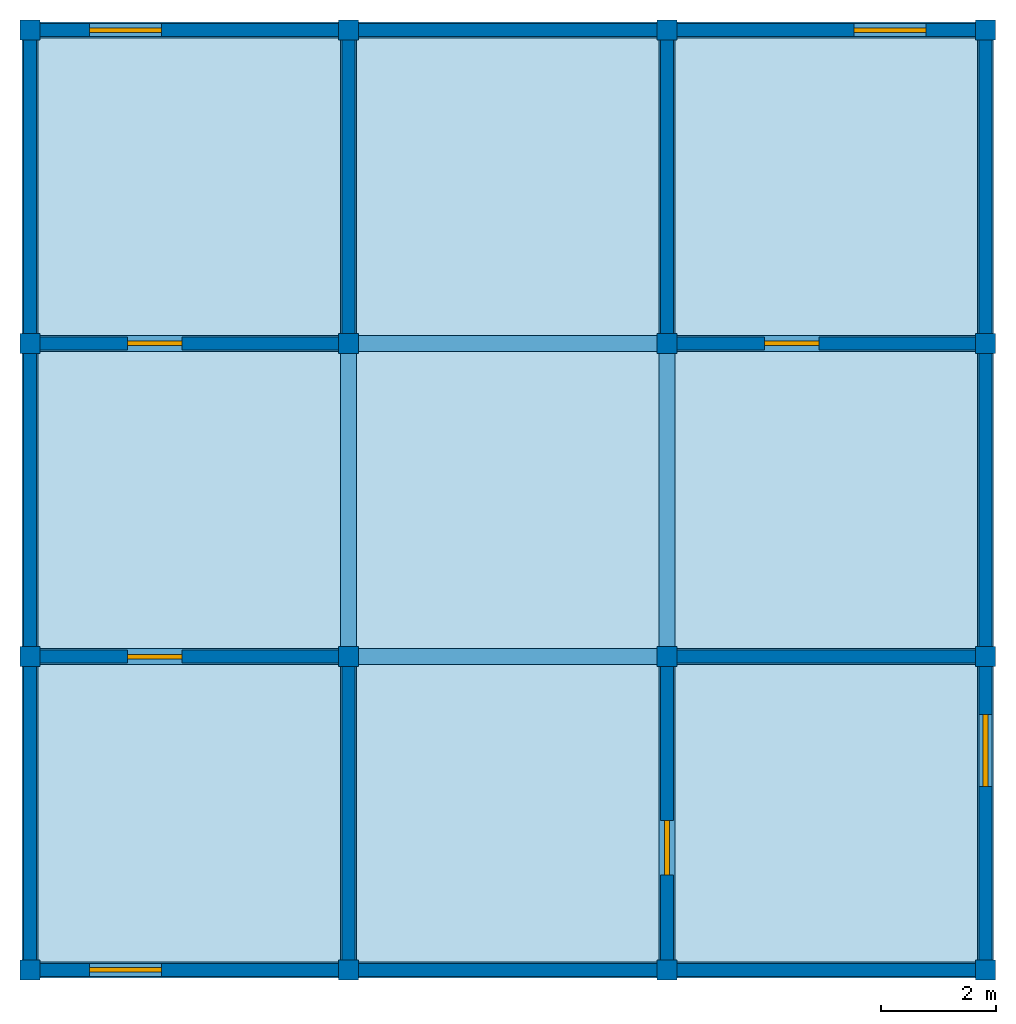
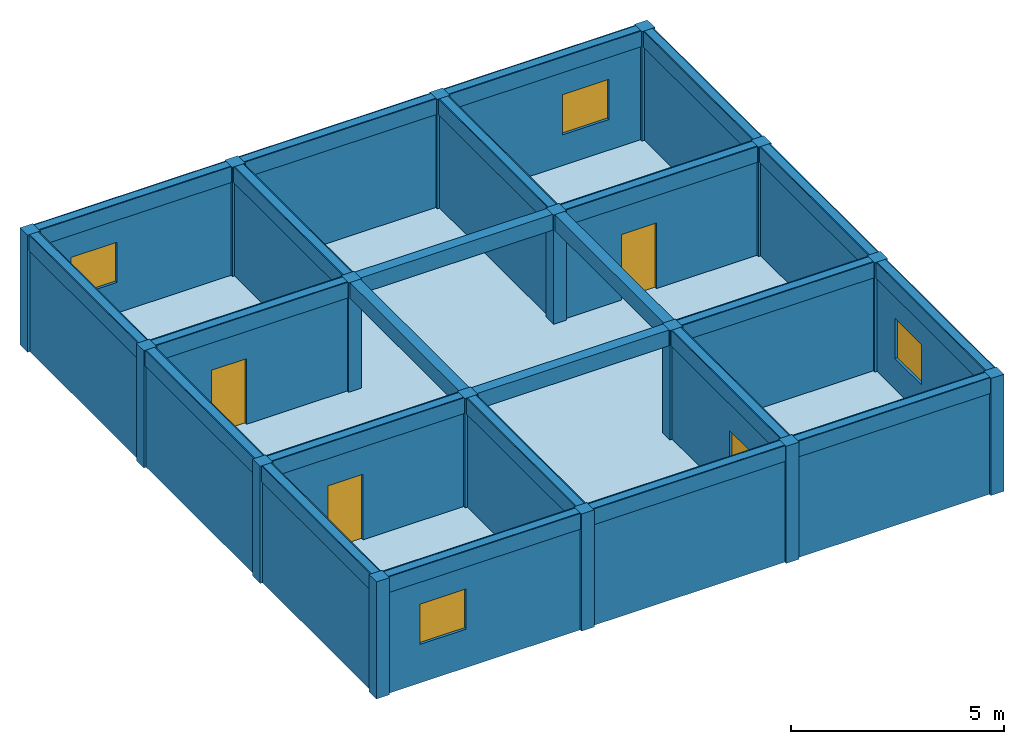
# One storey: 24 beams, 20 walls, 16 columns, 4 doors, 4 windows, 1 slab, 8 openings.
"""IFC4X3 building model written with IfcOpenShell, lengths in metres."""

from ifc_helpers import new_model, si_unit, frame, origin_with_axes, origin_2d, place, context, project, spatial, rectangle, extrude, material, element, fill, save


model = new_model("IFC4X3")

# Units and contexts
model_context = context("Model", 3, precision=1e-05, world=origin_with_axes())
ifc_project = project(units=[si_unit("LENGTHUNIT", "METRE"), si_unit("AREAUNIT", "SQUARE_METRE"), si_unit("VOLUMEUNIT", "CUBIC_METRE")], contexts=[model_context])

# Site, building, storey
site = spatial("IfcSite", under=ifc_project, Name="La Serena Parcel", CompositionType="ELEMENT")
building = spatial("IfcBuilding", under=site, Name="Atlas Building", CompositionType="ELEMENT")
storey = spatial("IfcBuildingStorey", under=building, Name="Level 5", CompositionType="ELEMENT", Elevation=13.4)

# Columns
ifc_material_1 = material(Name="Timber")
column_1_placement = place(None, frame((-8.31, -8.175, 13.396), z_axis=(0.0, 0.0, 1.0), x_axis=(1.0, 0.0, 0.0)))
element("IfcColumn", 1, at=column_1_placement, inside=storey, material=ifc_material_1, Name="Column 5.1", ObjectType="Facade Column", PredefinedType="NOTDEFINED", context=model_context, shape_type="SweptSolid", body=[
    extrude(rectangle(XDim=0.35, YDim=0.35, at=origin_2d()), origin_with_axes(), (0.0, 0.0, 1.0), 3.349),
])
column_2_placement = place(None, frame((-8.31, -2.725, 13.396), z_axis=(0.0, 0.0, 1.0), x_axis=(1.0, 0.0, 0.0)))
element("IfcColumn", 2, at=column_2_placement, inside=storey, material=ifc_material_1, Name="Column 5.2", ObjectType="Facade Column", PredefinedType="PILASTER", context=model_context, shape_type="SweptSolid", body=[
    extrude(rectangle(XDim=0.35, YDim=0.35, at=origin_2d()), origin_with_axes(), (0.0, 0.0, 1.0), 3.349),
])
column_3_placement = place(None, frame((-8.31, 2.725, 13.396), z_axis=(0.0, 0.0, 1.0), x_axis=(1.0, 0.0, 0.0)))
element("IfcColumn", 3, at=column_3_placement, inside=storey, material=ifc_material_1, Name="Column 5.3", ObjectType="Structural Column", PredefinedType="NOTDEFINED", context=model_context, shape_type="SweptSolid", body=[
    extrude(rectangle(XDim=0.35, YDim=0.35, at=origin_2d()), origin_with_axes(), (0.0, 0.0, 1.0), 3.349),
])
column_4_placement = place(None, frame((-8.31, 8.175, 13.396), z_axis=(0.0, 0.0, 1.0), x_axis=(1.0, 0.0, 0.0)))
element("IfcColumn", 4, at=column_4_placement, inside=storey, material=ifc_material_1, Name="Column 5.4", ObjectType="Corner Column", PredefinedType="NOTDEFINED", context=model_context, shape_type="SweptSolid", body=[
    extrude(rectangle(XDim=0.35, YDim=0.35, at=origin_2d()), origin_with_axes(), (0.0, 0.0, 1.0), 3.349),
])
column_5_placement = place(None, frame((-2.77, -8.175, 13.396), z_axis=(0.0, 0.0, 1.0), x_axis=(1.0, 0.0, 0.0)))
element("IfcColumn", 5, at=column_5_placement, inside=storey, material=ifc_material_1, Name="Column 5.5", ObjectType="Facade Column", PredefinedType="USERDEFINED", context=model_context, shape_type="SweptSolid", body=[
    extrude(rectangle(XDim=0.35, YDim=0.35, at=origin_2d()), origin_with_axes(), (0.0, 0.0, 1.0), 3.349),
])
for number, where, z_axis, x_axis, name in (
    (6, (-2.77, -2.725, 13.396), (0.0, 0.0, 1.0), (1.0, 0.0, 0.0), "Column 5.6"),
    (7, (-2.77, 2.725, 13.396), (0.0, 0.0, 1.0), (1.0, 0.0, 0.0), "Column 5.7"),
):
    element("IfcColumn", number, at=place(None, frame(where, z_axis=z_axis, x_axis=x_axis)), inside=storey, material=ifc_material_1, Name=name, ObjectType="Corner Column", PredefinedType="USERDEFINED", context=model_context, shape_type="SweptSolid", body=[
        extrude(rectangle(XDim=0.35, YDim=0.35, at=origin_2d()), origin_with_axes(), (0.0, 0.0, 1.0), 3.349),
    ])
for number, where, z_axis, x_axis, name in (
    (8, (-2.77, 8.175, 13.396), (0.0, 0.0, 1.0), (1.0, 0.0, 0.0), "Column 5.8"),
    (9, (2.77, -8.175, 13.396), (0.0, 0.0, 1.0), (1.0, 0.0, 0.0), "Column 5.9"),
):
    element("IfcColumn", number, at=place(None, frame(where, z_axis=z_axis, x_axis=x_axis)), inside=storey, material=ifc_material_1, Name=name, ObjectType="Facade Column", PredefinedType="USERDEFINED", context=model_context, shape_type="SweptSolid", body=[
        extrude(rectangle(XDim=0.35, YDim=0.35, at=origin_2d()), origin_with_axes(), (0.0, 0.0, 1.0), 3.349),
    ])
column_6_placement = place(None, frame((2.77, -2.725, 13.396), z_axis=(0.0, 0.0, 1.0), x_axis=(1.0, 0.0, 0.0)))
element("IfcColumn", 10, at=column_6_placement, inside=storey, material=ifc_material_1, Name="Column 5.10", ObjectType="Corner Column", PredefinedType="COLUMN", context=model_context, shape_type="SweptSolid", body=[
    extrude(rectangle(XDim=0.35, YDim=0.35, at=origin_2d()), origin_with_axes(), (0.0, 0.0, 1.0), 3.349),
])
column_7_placement = place(None, frame((2.77, 2.725, 13.396), z_axis=(0.0, 0.0, 1.0), x_axis=(1.0, 0.0, 0.0)))
element("IfcColumn", 11, at=column_7_placement, inside=storey, material=ifc_material_1, Name="Column 5.11", ObjectType="Facade Column", PredefinedType="PILASTER", context=model_context, shape_type="SweptSolid", body=[
    extrude(rectangle(XDim=0.35, YDim=0.35, at=origin_2d()), origin_with_axes(), (0.0, 0.0, 1.0), 3.349),
])
column_8_placement = place(None, frame((2.77, 8.175, 13.396), z_axis=(0.0, 0.0, 1.0), x_axis=(1.0, 0.0, 0.0)))
element("IfcColumn", 12, at=column_8_placement, inside=storey, material=ifc_material_1, Name="Column 5.12", ObjectType="Structural Column", PredefinedType="PILASTER", context=model_context, shape_type="SweptSolid", body=[
    extrude(rectangle(XDim=0.35, YDim=0.35, at=origin_2d()), origin_with_axes(), (0.0, 0.0, 1.0), 3.349),
])
column_9_placement = place(None, frame((8.31, -8.175, 13.396), z_axis=(0.0, 0.0, 1.0), x_axis=(1.0, 0.0, 0.0)))
element("IfcColumn", 13, at=column_9_placement, inside=storey, material=ifc_material_1, Name="Column 5.13", ObjectType="Facade Column", PredefinedType="USERDEFINED", context=model_context, shape_type="SweptSolid", body=[
    extrude(rectangle(XDim=0.35, YDim=0.35, at=origin_2d()), origin_with_axes(), (0.0, 0.0, 1.0), 3.349),
])
column_10_placement = place(None, frame((8.31, -2.725, 13.396), z_axis=(0.0, 0.0, 1.0), x_axis=(1.0, 0.0, 0.0)))
element("IfcColumn", 14, at=column_10_placement, inside=storey, material=ifc_material_1, Name="Column 5.14", ObjectType="Structural Column", PredefinedType="USERDEFINED", context=model_context, shape_type="SweptSolid", body=[
    extrude(rectangle(XDim=0.35, YDim=0.35, at=origin_2d()), origin_with_axes(), (0.0, 0.0, 1.0), 3.349),
])
column_11_placement = place(None, frame((8.31, 2.725, 13.396), z_axis=(0.0, 0.0, 1.0), x_axis=(1.0, 0.0, 0.0)))
element("IfcColumn", 15, at=column_11_placement, inside=storey, material=ifc_material_1, Name="Column 5.15", ObjectType="Facade Column", PredefinedType="NOTDEFINED", context=model_context, shape_type="SweptSolid", body=[
    extrude(rectangle(XDim=0.35, YDim=0.35, at=origin_2d()), origin_with_axes(), (0.0, 0.0, 1.0), 3.349),
])
column_12_placement = place(None, frame((8.31, 8.175, 13.396), z_axis=(0.0, 0.0, 1.0), x_axis=(1.0, 0.0, 0.0)))
element("IfcColumn", 16, at=column_12_placement, inside=storey, material=ifc_material_1, Name="Column 5.16", ObjectType="Structural Column", PredefinedType="NOTDEFINED", context=model_context, shape_type="SweptSolid", body=[
    extrude(rectangle(XDim=0.35, YDim=0.35, at=origin_2d()), origin_with_axes(), (0.0, 0.0, 1.0), 3.349),
])

# Beams
beam_1_placement = place(None, frame((-5.54, -8.175, 16.295), z_axis=(0.0, 0.0, 1.0), x_axis=(1.0, 0.0, 0.0)))
element("IfcBeam", 17, at=beam_1_placement, inside=storey, material=ifc_material_1, Name="Beam 5.1", ObjectType="Secondary Beam", PredefinedType="T_BEAM", context=model_context, shape_type="SweptSolid", body=[
    extrude(rectangle(XDim=5.54, YDim=0.28, at=origin_2d()), origin_with_axes(), (0.0, 0.0, 1.0), 0.45),
])
beam_2_placement = place(None, frame((0.0, -8.175, 16.295), z_axis=(0.0, 0.0, 1.0), x_axis=(1.0, 0.0, 0.0)))
element("IfcBeam", 18, at=beam_2_placement, inside=storey, material=ifc_material_1, Name="Beam 5.2", ObjectType="Transfer Beam", PredefinedType="BEAM", context=model_context, shape_type="SweptSolid", body=[
    extrude(rectangle(XDim=5.54, YDim=0.28, at=origin_2d()), origin_with_axes(), (0.0, 0.0, 1.0), 0.45),
])
beam_3_placement = place(None, frame((5.54, -8.175, 16.295), z_axis=(0.0, 0.0, 1.0), x_axis=(1.0, 0.0, 0.0)))
element("IfcBeam", 19, at=beam_3_placement, inside=storey, material=ifc_material_1, Name="Beam 5.3", ObjectType="Secondary Beam", PredefinedType="BEAM", context=model_context, shape_type="SweptSolid", body=[
    extrude(rectangle(XDim=5.54, YDim=0.28, at=origin_2d()), origin_with_axes(), (0.0, 0.0, 1.0), 0.45),
])
beam_4_placement = place(None, frame((-5.54, -2.725, 16.295), z_axis=(0.0, 0.0, 1.0), x_axis=(1.0, 0.0, 0.0)))
element("IfcBeam", 20, at=beam_4_placement, inside=storey, material=ifc_material_1, Name="Beam 5.4", ObjectType="Secondary Beam", PredefinedType="HOLLOWCORE", context=model_context, shape_type="SweptSolid", body=[
    extrude(rectangle(XDim=5.54, YDim=0.28, at=origin_2d()), origin_with_axes(), (0.0, 0.0, 1.0), 0.45),
])
beam_5_placement = place(None, frame((0.0, -2.725, 16.295), z_axis=(0.0, 0.0, 1.0), x_axis=(1.0, 0.0, 0.0)))
element("IfcBeam", 21, at=beam_5_placement, inside=storey, material=ifc_material_1, Name="Beam 5.5", ObjectType="Transfer Beam", PredefinedType="SPANDREL", context=model_context, shape_type="SweptSolid", body=[
    extrude(rectangle(XDim=5.54, YDim=0.28, at=origin_2d()), origin_with_axes(), (0.0, 0.0, 1.0), 0.45),
])
beam_6_placement = place(None, frame((5.54, -2.725, 16.295), z_axis=(0.0, 0.0, 1.0), x_axis=(1.0, 0.0, 0.0)))
element("IfcBeam", 22, at=beam_6_placement, inside=storey, material=ifc_material_1, Name="Beam 5.6", ObjectType="Primary Beam", PredefinedType="T_BEAM", context=model_context, shape_type="SweptSolid", body=[
    extrude(rectangle(XDim=5.54, YDim=0.28, at=origin_2d()), origin_with_axes(), (0.0, 0.0, 1.0), 0.45),
])
beam_7_placement = place(None, frame((-5.54, 2.725, 16.295), z_axis=(0.0, 0.0, 1.0), x_axis=(1.0, 0.0, 0.0)))
element("IfcBeam", 23, at=beam_7_placement, inside=storey, material=ifc_material_1, Name="Beam 5.7", ObjectType="Secondary Beam", PredefinedType="SPANDREL", context=model_context, shape_type="SweptSolid", body=[
    extrude(rectangle(XDim=5.54, YDim=0.28, at=origin_2d()), origin_with_axes(), (0.0, 0.0, 1.0), 0.45),
])
beam_8_placement = place(None, frame((0.0, 2.725, 16.295), z_axis=(0.0, 0.0, 1.0), x_axis=(1.0, 0.0, 0.0)))
element("IfcBeam", 24, at=beam_8_placement, inside=storey, material=ifc_material_1, Name="Beam 5.8", ObjectType="Ridge Beam", PredefinedType="T_BEAM", context=model_context, shape_type="SweptSolid", body=[
    extrude(rectangle(XDim=5.54, YDim=0.28, at=origin_2d()), origin_with_axes(), (0.0, 0.0, 1.0), 0.45),
])
beam_9_placement = place(None, frame((5.54, 2.725, 16.295), z_axis=(0.0, 0.0, 1.0), x_axis=(1.0, 0.0, 0.0)))
element("IfcBeam", 25, at=beam_9_placement, inside=storey, material=ifc_material_1, Name="Beam 5.9", ObjectType="Transfer Beam", PredefinedType="JOIST", context=model_context, shape_type="SweptSolid", body=[
    extrude(rectangle(XDim=5.54, YDim=0.28, at=origin_2d()), origin_with_axes(), (0.0, 0.0, 1.0), 0.45),
])
beam_10_placement = place(None, frame((-5.54, 8.175, 16.295), z_axis=(0.0, 0.0, 1.0), x_axis=(1.0, 0.0, 0.0)))
element("IfcBeam", 26, at=beam_10_placement, inside=storey, material=ifc_material_1, Name="Beam 5.10", ObjectType="Ridge Beam", PredefinedType="SPANDREL", context=model_context, shape_type="SweptSolid", body=[
    extrude(rectangle(XDim=5.54, YDim=0.28, at=origin_2d()), origin_with_axes(), (0.0, 0.0, 1.0), 0.45),
])
beam_11_placement = place(None, frame((0.0, 8.175, 16.295), z_axis=(0.0, 0.0, 1.0), x_axis=(1.0, 0.0, 0.0)))
element("IfcBeam", 27, at=beam_11_placement, inside=storey, material=ifc_material_1, Name="Beam 5.11", ObjectType="Ridge Beam", PredefinedType="T_BEAM", context=model_context, shape_type="SweptSolid", body=[
    extrude(rectangle(XDim=5.54, YDim=0.28, at=origin_2d()), origin_with_axes(), (0.0, 0.0, 1.0), 0.45),
])
beam_12_placement = place(None, frame((5.54, 8.175, 16.295), z_axis=(0.0, 0.0, 1.0), x_axis=(1.0, 0.0, 0.0)))
element("IfcBeam", 28, at=beam_12_placement, inside=storey, material=ifc_material_1, Name="Beam 5.12", ObjectType="Rafter Beam", PredefinedType="T_BEAM", context=model_context, shape_type="SweptSolid", body=[
    extrude(rectangle(XDim=5.54, YDim=0.28, at=origin_2d()), origin_with_axes(), (0.0, 0.0, 1.0), 0.45),
])
for number, where, z_axis, x_axis, name in (
    (29, (-8.31, -5.45, 16.295), (0.0, 0.0, 1.0), (0.0, 1.0, 0.0), "Beam 5.13"),
    (30, (-8.31, 0.0, 16.295), (0.0, 0.0, 1.0), (0.0, 1.0, 0.0), "Beam 5.14"),
):
    element("IfcBeam", number, at=place(None, frame(where, z_axis=z_axis, x_axis=x_axis)), inside=storey, material=ifc_material_1, Name=name, ObjectType="Primary Beam", PredefinedType="BEAM", context=model_context, shape_type="SweptSolid", body=[
        extrude(rectangle(XDim=5.45, YDim=0.28, at=origin_2d()), origin_with_axes(), (0.0, 0.0, 1.0), 0.45),
    ])
beam_13_placement = place(None, frame((-8.31, 5.45, 16.295), z_axis=(0.0, 0.0, 1.0), x_axis=(0.0, 1.0, 0.0)))
element("IfcBeam", 31, at=beam_13_placement, inside=storey, material=ifc_material_1, Name="Beam 5.15", ObjectType="Primary Beam", PredefinedType="HOLLOWCORE", context=model_context, shape_type="SweptSolid", body=[
    extrude(rectangle(XDim=5.45, YDim=0.28, at=origin_2d()), origin_with_axes(), (0.0, 0.0, 1.0), 0.45),
])
beam_14_placement = place(None, frame((-2.77, -5.45, 16.295), z_axis=(0.0, 0.0, 1.0), x_axis=(0.0, 1.0, 0.0)))
element("IfcBeam", 32, at=beam_14_placement, inside=storey, material=ifc_material_1, Name="Beam 5.16", ObjectType="Secondary Beam", PredefinedType="BEAM", context=model_context, shape_type="SweptSolid", body=[
    extrude(rectangle(XDim=5.45, YDim=0.28, at=origin_2d()), origin_with_axes(), (0.0, 0.0, 1.0), 0.45),
])
beam_15_placement = place(None, frame((-2.77, 0.0, 16.295), z_axis=(0.0, 0.0, 1.0), x_axis=(0.0, 1.0, 0.0)))
element("IfcBeam", 33, at=beam_15_placement, inside=storey, material=ifc_material_1, Name="Beam 5.17", ObjectType="Rafter Beam", PredefinedType="T_BEAM", context=model_context, shape_type="SweptSolid", body=[
    extrude(rectangle(XDim=5.45, YDim=0.28, at=origin_2d()), origin_with_axes(), (0.0, 0.0, 1.0), 0.45),
])
beam_16_placement = place(None, frame((-2.77, 5.45, 16.295), z_axis=(0.0, 0.0, 1.0), x_axis=(0.0, 1.0, 0.0)))
element("IfcBeam", 34, at=beam_16_placement, inside=storey, material=ifc_material_1, Name="Beam 5.18", ObjectType="Rafter Beam", PredefinedType="HOLLOWCORE", context=model_context, shape_type="SweptSolid", body=[
    extrude(rectangle(XDim=5.45, YDim=0.28, at=origin_2d()), origin_with_axes(), (0.0, 0.0, 1.0), 0.45),
])
beam_17_placement = place(None, frame((2.77, -5.45, 16.295), z_axis=(0.0, 0.0, 1.0), x_axis=(0.0, 1.0, 0.0)))
element("IfcBeam", 35, at=beam_17_placement, inside=storey, material=ifc_material_1, Name="Beam 5.19", ObjectType="Secondary Beam", PredefinedType="USERDEFINED", context=model_context, shape_type="SweptSolid", body=[
    extrude(rectangle(XDim=5.45, YDim=0.28, at=origin_2d()), origin_with_axes(), (0.0, 0.0, 1.0), 0.45),
])
beam_18_placement = place(None, frame((2.77, 0.0, 16.295), z_axis=(0.0, 0.0, 1.0), x_axis=(0.0, 1.0, 0.0)))
element("IfcBeam", 36, at=beam_18_placement, inside=storey, material=ifc_material_1, Name="Beam 5.20", ObjectType="Secondary Beam", PredefinedType="JOIST", context=model_context, shape_type="SweptSolid", body=[
    extrude(rectangle(XDim=5.45, YDim=0.28, at=origin_2d()), origin_with_axes(), (0.0, 0.0, 1.0), 0.45),
])
beam_19_placement = place(None, frame((2.77, 5.45, 16.295), z_axis=(0.0, 0.0, 1.0), x_axis=(0.0, 1.0, 0.0)))
element("IfcBeam", 37, at=beam_19_placement, inside=storey, material=ifc_material_1, Name="Beam 5.21", ObjectType="Primary Beam", PredefinedType="NOTDEFINED", context=model_context, shape_type="SweptSolid", body=[
    extrude(rectangle(XDim=5.45, YDim=0.28, at=origin_2d()), origin_with_axes(), (0.0, 0.0, 1.0), 0.45),
])
beam_20_placement = place(None, frame((8.31, -5.45, 16.295), z_axis=(0.0, 0.0, 1.0), x_axis=(0.0, 1.0, 0.0)))
element("IfcBeam", 38, at=beam_20_placement, inside=storey, material=ifc_material_1, Name="Beam 5.22", ObjectType="Transfer Beam", PredefinedType="BEAM", context=model_context, shape_type="SweptSolid", body=[
    extrude(rectangle(XDim=5.45, YDim=0.28, at=origin_2d()), origin_with_axes(), (0.0, 0.0, 1.0), 0.45),
])
beam_21_placement = place(None, frame((8.31, 0.0, 16.295), z_axis=(0.0, 0.0, 1.0), x_axis=(0.0, 1.0, 0.0)))
element("IfcBeam", 39, at=beam_21_placement, inside=storey, material=ifc_material_1, Name="Beam 5.23", ObjectType="Primary Beam", PredefinedType="SPANDREL", context=model_context, shape_type="SweptSolid", body=[
    extrude(rectangle(XDim=5.45, YDim=0.28, at=origin_2d()), origin_with_axes(), (0.0, 0.0, 1.0), 0.45),
])
beam_22_placement = place(None, frame((8.31, 5.45, 16.295), z_axis=(0.0, 0.0, 1.0), x_axis=(0.0, 1.0, 0.0)))
element("IfcBeam", 40, at=beam_22_placement, inside=storey, material=ifc_material_1, Name="Beam 5.24", ObjectType="Ridge Beam", PredefinedType="USERDEFINED", context=model_context, shape_type="SweptSolid", body=[
    extrude(rectangle(XDim=5.45, YDim=0.28, at=origin_2d()), origin_with_axes(), (0.0, 0.0, 1.0), 0.45),
])

# Slab
ifc_material_2 = material(Name="Composite")
slab_placement = place(None, frame((0.0, 0.0, 13.4), z_axis=(0.0, 0.0, 1.0), x_axis=(1.0, 0.0, 0.0)))
element("IfcSlab", 41, at=slab_placement, inside=storey, material=ifc_material_2, Name="Slab 5", ObjectType="Floor Slab", PredefinedType="FLOOR", context=model_context, shape_type="SweptSolid", body=[
    extrude(rectangle(XDim=16.62, YDim=16.35, at=origin_2d()), origin_with_axes(), (0.0, 0.0, 1.0), 0.22),
])

# Wall, opening, door
ifc_material_3 = material(Name="Brick")
wall_1_placement = place(None, frame((-5.54, -2.725, 13.396), z_axis=(0.0, 0.0, 1.0), x_axis=(1.0, 0.0, 0.0)))
wall_1 = element("IfcWall", 42, at=wall_1_placement, inside=storey, material=ifc_material_3, Name="Wall 5.1", ObjectType="Corridor Partition", PredefinedType="POLYGONAL", context=model_context, shape_type="SweptSolid", body=[
    extrude(rectangle(XDim=5.54, YDim=0.223835, at=origin_2d()), origin_with_axes(), (0.0, 0.0, 1.0), 3.349),
])
opening_1_placement = place(None, frame((-6.14, -2.725, 13.396), z_axis=(0.0, 0.0, 1.0), x_axis=(1.0, 0.0, 0.0)))
opening_1 = element("IfcOpeningElement", 43, at=opening_1_placement, cuts=wall_1, Name="Door opening 5.1", ObjectType="Door Opening", PredefinedType="OPENING", context=model_context, shape_type="SweptSolid", body=[
    extrude(rectangle(XDim=0.95, YDim=0.303835, at=origin_2d()), origin_with_axes(), (0.0, 0.0, 1.0), 2.1),
])
door_1_placement = place(None, frame((-6.14, -2.725, 13.396), z_axis=(0.0, 0.0, 1.0), x_axis=(1.0, 0.0, 0.0)))
door_1 = element("IfcDoor", 44, at=door_1_placement, inside=storey, Name="Door 5.1", ObjectType="Entry Door", OverallHeight=2.1, OverallWidth=0.95, context=model_context, shape_type="SweptSolid", body=[
    extrude(rectangle(XDim=0.95, YDim=0.08, at=origin_2d()), origin_with_axes(), (0.0, 0.0, 1.0), 2.1),
])
fill(opening_1, door_1)

# Wall
ifc_material_4 = material(Name="Concrete")
wall_2_placement = place(None, frame((-2.77, -5.45, 13.396), z_axis=(0.0, 0.0, 1.0), x_axis=(0.0, 1.0, 0.0)))
element("IfcWall", 45, at=wall_2_placement, inside=storey, material=ifc_material_4, Name="Wall 5.2", ObjectType="Corridor Partition", PredefinedType="MOVABLE", context=model_context, shape_type="SweptSolid", body=[
    extrude(rectangle(XDim=5.45, YDim=0.223835, at=origin_2d()), origin_with_axes(), (0.0, 0.0, 1.0), 3.349),
])

# Wall, opening, window
ifc_material_5 = material(Name="CLT")
wall_3_placement = place(None, frame((-5.54, -8.175, 13.396), z_axis=(0.0, 0.0, 1.0), x_axis=(1.0, 0.0, 0.0)))
wall_3 = element("IfcWall", 46, at=wall_3_placement, inside=storey, material=ifc_material_5, Name="Wall 5.3", ObjectType="Exterior Wall", PredefinedType="MOVABLE", context=model_context, shape_type="SweptSolid", body=[
    extrude(rectangle(XDim=5.54, YDim=0.223835, at=origin_2d()), origin_with_axes(), (0.0, 0.0, 1.0), 3.349),
])
opening_2_placement = place(None, frame((-6.648, -8.175, 14.496), z_axis=(0.0, 0.0, 1.0), x_axis=(1.0, 0.0, 0.0)))
opening_2 = element("IfcOpeningElement", 47, at=opening_2_placement, cuts=wall_3, Name="Window opening 5.2", ObjectType="Window Opening", PredefinedType="OPENING", context=model_context, shape_type="SweptSolid", body=[
    extrude(rectangle(XDim=1.25, YDim=0.303835, at=origin_2d()), origin_with_axes(), (0.0, 0.0, 1.0), 1.15),
])
window_1_placement = place(None, frame((-6.648, -8.175, 14.496), z_axis=(0.0, 0.0, 1.0), x_axis=(1.0, 0.0, 0.0)))
window_1 = element("IfcWindow", 48, at=window_1_placement, inside=storey, Name="Window 5.2", ObjectType="Louvre Window", OverallHeight=1.15, OverallWidth=1.25, context=model_context, shape_type="SweptSolid", body=[
    extrude(rectangle(XDim=1.25, YDim=0.08, at=origin_2d()), origin_with_axes(), (0.0, 0.0, 1.0), 1.15),
])
fill(opening_2, window_1)

# Wall
ifc_material_6 = material(Name="Gypsum")
wall_4_placement = place(None, frame((-8.31, -5.45, 13.396), z_axis=(0.0, 0.0, 1.0), x_axis=(0.0, 1.0, 0.0)))
element("IfcWall", 49, at=wall_4_placement, inside=storey, material=ifc_material_6, Name="Wall 5.4", ObjectType="Exterior Wall", PredefinedType="PARTITIONING", context=model_context, shape_type="SweptSolid", body=[
    extrude(rectangle(XDim=5.45, YDim=0.223835, at=origin_2d()), origin_with_axes(), (0.0, 0.0, 1.0), 3.349),
])

# Wall, opening, door
wall_5_placement = place(None, frame((2.77, -5.45, 13.396), z_axis=(0.0, 0.0, 1.0), x_axis=(0.0, 1.0, 0.0)))
wall_5 = element("IfcWall", 50, at=wall_5_placement, inside=storey, material=ifc_material_4, Name="Wall 5.5", ObjectType="Corridor Partition", PredefinedType="STANDARD", context=model_context, shape_type="SweptSolid", body=[
    extrude(rectangle(XDim=5.45, YDim=0.223835, at=origin_2d()), origin_with_axes(), (0.0, 0.0, 1.0), 3.349),
])
opening_3_placement = place(None, frame((2.77, -6.05, 13.396), z_axis=(0.0, 0.0, 1.0), x_axis=(0.0, 1.0, 0.0)))
opening_3 = element("IfcOpeningElement", 51, at=opening_3_placement, cuts=wall_5, Name="Door opening 5.3", ObjectType="Door Opening", PredefinedType="OPENING", context=model_context, shape_type="SweptSolid", body=[
    extrude(rectangle(XDim=0.95, YDim=0.303835, at=origin_2d()), origin_with_axes(), (0.0, 0.0, 1.0), 2.1),
])
door_2_placement = place(None, frame((2.77, -6.05, 13.396), z_axis=(0.0, 0.0, 1.0), x_axis=(0.0, 1.0, 0.0)))
door_2 = element("IfcDoor", 52, at=door_2_placement, inside=storey, Name="Door 5.3", ObjectType="Interior Door", OverallHeight=2.1, OverallWidth=0.95, context=model_context, shape_type="SweptSolid", body=[
    extrude(rectangle(XDim=0.95, YDim=0.08, at=origin_2d()), origin_with_axes(), (0.0, 0.0, 1.0), 2.1),
])
fill(opening_3, door_2)

# Walls
wall_6_placement = place(None, frame((0.0, -8.175, 13.396), z_axis=(0.0, 0.0, 1.0), x_axis=(1.0, 0.0, 0.0)))
element("IfcWall", 53, at=wall_6_placement, inside=storey, material=ifc_material_4, Name="Wall 5.6", ObjectType="Exterior Wall", PredefinedType="PLUMBINGWALL", context=model_context, shape_type="SweptSolid", body=[
    extrude(rectangle(XDim=5.54, YDim=0.223835, at=origin_2d()), origin_with_axes(), (0.0, 0.0, 1.0), 3.349),
])
wall_7_placement = place(None, frame((5.54, -2.725, 13.396), z_axis=(0.0, 0.0, 1.0), x_axis=(1.0, 0.0, 0.0)))
element("IfcWall", 54, at=wall_7_placement, inside=storey, material=ifc_material_6, Name="Wall 5.7", ObjectType="Corridor Partition", PredefinedType="PARAPET", context=model_context, shape_type="SweptSolid", body=[
    extrude(rectangle(XDim=5.54, YDim=0.223835, at=origin_2d()), origin_with_axes(), (0.0, 0.0, 1.0), 3.349),
])

# Wall, opening, window
wall_8_placement = place(None, frame((8.31, -5.45, 13.396), z_axis=(0.0, 0.0, 1.0), x_axis=(0.0, 1.0, 0.0)))
wall_8 = element("IfcWall", 55, at=wall_8_placement, inside=storey, material=ifc_material_6, Name="Wall 5.8", ObjectType="Exterior Wall", PredefinedType="PLUMBINGWALL", context=model_context, shape_type="SweptSolid", body=[
    extrude(rectangle(XDim=5.45, YDim=0.223835, at=origin_2d()), origin_with_axes(), (0.0, 0.0, 1.0), 3.349),
])
opening_4_placement = place(None, frame((8.31, -4.36, 14.496), z_axis=(0.0, 0.0, 1.0), x_axis=(0.0, 1.0, 0.0)))
opening_4 = element("IfcOpeningElement", 56, at=opening_4_placement, cuts=wall_8, Name="Window opening 5.4", ObjectType="Window Opening", PredefinedType="OPENING", context=model_context, shape_type="SweptSolid", body=[
    extrude(rectangle(XDim=1.25, YDim=0.303835, at=origin_2d()), origin_with_axes(), (0.0, 0.0, 1.0), 1.15),
])
window_2_placement = place(None, frame((8.31, -4.36, 14.496), z_axis=(0.0, 0.0, 1.0), x_axis=(0.0, 1.0, 0.0)))
window_2 = element("IfcWindow", 57, at=window_2_placement, inside=storey, Name="Window 5.4", ObjectType="Sliding Window", OverallHeight=1.15, OverallWidth=1.25, context=model_context, shape_type="SweptSolid", body=[
    extrude(rectangle(XDim=1.25, YDim=0.08, at=origin_2d()), origin_with_axes(), (0.0, 0.0, 1.0), 1.15),
])
fill(opening_4, window_2)

# Wall
wall_9_placement = place(None, frame((5.54, -8.175, 13.396), z_axis=(0.0, 0.0, 1.0), x_axis=(1.0, 0.0, 0.0)))
element("IfcWall", 58, at=wall_9_placement, inside=storey, material=ifc_material_5, Name="Wall 5.9", ObjectType="Exterior Wall", PredefinedType="SOLIDWALL", context=model_context, shape_type="SweptSolid", body=[
    extrude(rectangle(XDim=5.54, YDim=0.223835, at=origin_2d()), origin_with_axes(), (0.0, 0.0, 1.0), 3.349),
])

# Wall, opening, door
wall_10_placement = place(None, frame((-5.54, 2.725, 13.396), z_axis=(0.0, 0.0, 1.0), x_axis=(1.0, 0.0, 0.0)))
wall_10 = element("IfcWall", 59, at=wall_10_placement, inside=storey, material=ifc_material_4, Name="Wall 5.10", ObjectType="Corridor Partition", PredefinedType="MOVABLE", context=model_context, shape_type="SweptSolid", body=[
    extrude(rectangle(XDim=5.54, YDim=0.223835, at=origin_2d()), origin_with_axes(), (0.0, 0.0, 1.0), 3.349),
])
opening_5_placement = place(None, frame((-6.14, 2.725, 13.396), z_axis=(0.0, 0.0, 1.0), x_axis=(1.0, 0.0, 0.0)))
opening_5 = element("IfcOpeningElement", 60, at=opening_5_placement, cuts=wall_10, Name="Door opening 5.5", ObjectType="Door Opening", PredefinedType="OPENING", context=model_context, shape_type="SweptSolid", body=[
    extrude(rectangle(XDim=0.95, YDim=0.303835, at=origin_2d()), origin_with_axes(), (0.0, 0.0, 1.0), 2.1),
])
door_3_placement = place(None, frame((-6.14, 2.725, 13.396), z_axis=(0.0, 0.0, 1.0), x_axis=(1.0, 0.0, 0.0)))
door_3 = element("IfcDoor", 61, at=door_3_placement, inside=storey, Name="Door 5.5", ObjectType="Fire Door", OverallHeight=2.1, OverallWidth=0.95, context=model_context, shape_type="SweptSolid", body=[
    extrude(rectangle(XDim=0.95, YDim=0.08, at=origin_2d()), origin_with_axes(), (0.0, 0.0, 1.0), 2.1),
])
fill(opening_5, door_3)

# Wall
wall_11_placement = place(None, frame((-8.31, 0.0, 13.396), z_axis=(0.0, 0.0, 1.0), x_axis=(0.0, 1.0, 0.0)))
element("IfcWall", 62, at=wall_11_placement, inside=storey, material=ifc_material_6, Name="Wall 5.11", ObjectType="Exterior Wall", PredefinedType="ELEMENTEDWALL", context=model_context, shape_type="SweptSolid", body=[
    extrude(rectangle(XDim=5.45, YDim=0.223835, at=origin_2d()), origin_with_axes(), (0.0, 0.0, 1.0), 3.349),
])

# Wall, opening, door
wall_12_placement = place(None, frame((5.54, 2.725, 13.396), z_axis=(0.0, 0.0, 1.0), x_axis=(1.0, 0.0, 0.0)))
wall_12 = element("IfcWall", 63, at=wall_12_placement, inside=storey, material=ifc_material_5, Name="Wall 5.12", ObjectType="Corridor Partition", PredefinedType="PARAPET", context=model_context, shape_type="SweptSolid", body=[
    extrude(rectangle(XDim=5.54, YDim=0.223835, at=origin_2d()), origin_with_axes(), (0.0, 0.0, 1.0), 3.349),
])
opening_6_placement = place(None, frame((4.94, 2.725, 13.396), z_axis=(0.0, 0.0, 1.0), x_axis=(1.0, 0.0, 0.0)))
opening_6 = element("IfcOpeningElement", 64, at=opening_6_placement, cuts=wall_12, Name="Door opening 5.7", ObjectType="Door Opening", PredefinedType="OPENING", context=model_context, shape_type="SweptSolid", body=[
    extrude(rectangle(XDim=0.95, YDim=0.303835, at=origin_2d()), origin_with_axes(), (0.0, 0.0, 1.0), 2.1),
])
door_4_placement = place(None, frame((4.94, 2.725, 13.396), z_axis=(0.0, 0.0, 1.0), x_axis=(1.0, 0.0, 0.0)))
door_4 = element("IfcDoor", 65, at=door_4_placement, inside=storey, Name="Door 5.7", ObjectType="Fire Door", OverallHeight=2.1, OverallWidth=0.95, context=model_context, shape_type="SweptSolid", body=[
    extrude(rectangle(XDim=0.95, YDim=0.08, at=origin_2d()), origin_with_axes(), (0.0, 0.0, 1.0), 2.1),
])
fill(opening_6, door_4)

# Wall
wall_13_placement = place(None, frame((8.31, 0.0, 13.396), z_axis=(0.0, 0.0, 1.0), x_axis=(0.0, 1.0, 0.0)))
element("IfcWall", 66, at=wall_13_placement, inside=storey, material=ifc_material_5, Name="Wall 5.13", ObjectType="Exterior Wall", PredefinedType="SHEAR", context=model_context, shape_type="SweptSolid", body=[
    extrude(rectangle(XDim=5.45, YDim=0.223835, at=origin_2d()), origin_with_axes(), (0.0, 0.0, 1.0), 3.349),
])

# Wall, opening, window
wall_14_placement = place(None, frame((-5.54, 8.175, 13.396), z_axis=(0.0, 0.0, 1.0), x_axis=(1.0, 0.0, 0.0)))
wall_14 = element("IfcWall", 67, at=wall_14_placement, inside=storey, material=ifc_material_4, Name="Wall 5.14", ObjectType="Exterior Wall", PredefinedType="SHEAR", context=model_context, shape_type="SweptSolid", body=[
    extrude(rectangle(XDim=5.54, YDim=0.223835, at=origin_2d()), origin_with_axes(), (0.0, 0.0, 1.0), 3.349),
])
opening_7_placement = place(None, frame((-6.648, 8.175, 14.496), z_axis=(0.0, 0.0, 1.0), x_axis=(1.0, 0.0, 0.0)))
opening_7 = element("IfcOpeningElement", 68, at=opening_7_placement, cuts=wall_14, Name="Window opening 5.6", ObjectType="Window Opening", PredefinedType="OPENING", context=model_context, shape_type="SweptSolid", body=[
    extrude(rectangle(XDim=1.25, YDim=0.303835, at=origin_2d()), origin_with_axes(), (0.0, 0.0, 1.0), 1.15),
])
window_3_placement = place(None, frame((-6.648, 8.175, 14.496), z_axis=(0.0, 0.0, 1.0), x_axis=(1.0, 0.0, 0.0)))
window_3 = element("IfcWindow", 69, at=window_3_placement, inside=storey, Name="Window 5.6", ObjectType="Operable Window", OverallHeight=1.15, OverallWidth=1.25, context=model_context, shape_type="SweptSolid", body=[
    extrude(rectangle(XDim=1.25, YDim=0.08, at=origin_2d()), origin_with_axes(), (0.0, 0.0, 1.0), 1.15),
])
fill(opening_7, window_3)

# Walls
wall_15_placement = place(None, frame((-2.77, 5.45, 13.396), z_axis=(0.0, 0.0, 1.0), x_axis=(0.0, 1.0, 0.0)))
element("IfcWall", 70, at=wall_15_placement, inside=storey, material=ifc_material_5, Name="Wall 5.15", ObjectType="Corridor Partition", PredefinedType="SOLIDWALL", context=model_context, shape_type="SweptSolid", body=[
    extrude(rectangle(XDim=5.45, YDim=0.223835, at=origin_2d()), origin_with_axes(), (0.0, 0.0, 1.0), 3.349),
])
wall_16_placement = place(None, frame((-8.31, 5.45, 13.396), z_axis=(0.0, 0.0, 1.0), x_axis=(0.0, 1.0, 0.0)))
element("IfcWall", 71, at=wall_16_placement, inside=storey, material=ifc_material_6, Name="Wall 5.16", ObjectType="Exterior Wall", PredefinedType="PLUMBINGWALL", context=model_context, shape_type="SweptSolid", body=[
    extrude(rectangle(XDim=5.45, YDim=0.223835, at=origin_2d()), origin_with_axes(), (0.0, 0.0, 1.0), 3.349),
])
wall_17_placement = place(None, frame((0.0, 8.175, 13.396), z_axis=(0.0, 0.0, 1.0), x_axis=(1.0, 0.0, 0.0)))
element("IfcWall", 72, at=wall_17_placement, inside=storey, material=ifc_material_5, Name="Wall 5.17", ObjectType="Exterior Wall", PredefinedType="ELEMENTEDWALL", context=model_context, shape_type="SweptSolid", body=[
    extrude(rectangle(XDim=5.54, YDim=0.223835, at=origin_2d()), origin_with_axes(), (0.0, 0.0, 1.0), 3.349),
])
wall_18_placement = place(None, frame((2.77, 5.45, 13.396), z_axis=(0.0, 0.0, 1.0), x_axis=(0.0, 1.0, 0.0)))
element("IfcWall", 73, at=wall_18_placement, inside=storey, material=ifc_material_4, Name="Wall 5.18", ObjectType="Corridor Partition", PredefinedType="POLYGONAL", context=model_context, shape_type="SweptSolid", body=[
    extrude(rectangle(XDim=5.45, YDim=0.223835, at=origin_2d()), origin_with_axes(), (0.0, 0.0, 1.0), 3.349),
])

# Wall, opening, window
wall_19_placement = place(None, frame((5.54, 8.175, 13.396), z_axis=(0.0, 0.0, 1.0), x_axis=(1.0, 0.0, 0.0)))
wall_19 = element("IfcWall", 74, at=wall_19_placement, inside=storey, material=ifc_material_4, Name="Wall 5.19", ObjectType="Exterior Wall", PredefinedType="STANDARD", context=model_context, shape_type="SweptSolid", body=[
    extrude(rectangle(XDim=5.54, YDim=0.223835, at=origin_2d()), origin_with_axes(), (0.0, 0.0, 1.0), 3.349),
])
opening_8_placement = place(None, frame((6.648, 8.175, 14.496), z_axis=(0.0, 0.0, 1.0), x_axis=(1.0, 0.0, 0.0)))
opening_8 = element("IfcOpeningElement", 75, at=opening_8_placement, cuts=wall_19, Name="Window opening 5.8", ObjectType="Window Opening", PredefinedType="OPENING", context=model_context, shape_type="SweptSolid", body=[
    extrude(rectangle(XDim=1.25, YDim=0.303835, at=origin_2d()), origin_with_axes(), (0.0, 0.0, 1.0), 1.15),
])
window_4_placement = place(None, frame((6.648, 8.175, 14.496), z_axis=(0.0, 0.0, 1.0), x_axis=(1.0, 0.0, 0.0)))
window_4 = element("IfcWindow", 76, at=window_4_placement, inside=storey, Name="Window 5.8", ObjectType="Sliding Window", OverallHeight=1.15, OverallWidth=1.25, context=model_context, shape_type="SweptSolid", body=[
    extrude(rectangle(XDim=1.25, YDim=0.08, at=origin_2d()), origin_with_axes(), (0.0, 0.0, 1.0), 1.15),
])
fill(opening_8, window_4)

# Wall
wall_20_placement = place(None, frame((8.31, 5.45, 13.396), z_axis=(0.0, 0.0, 1.0), x_axis=(0.0, 1.0, 0.0)))
element("IfcWall", 77, at=wall_20_placement, inside=storey, material=ifc_material_6, Name="Wall 5.20", ObjectType="Exterior Wall", PredefinedType="SOLIDWALL", context=model_context, shape_type="SweptSolid", body=[
    extrude(rectangle(XDim=5.45, YDim=0.223835, at=origin_2d()), origin_with_axes(), (0.0, 0.0, 1.0), 3.349),
])

save(model, "model.ifc")
